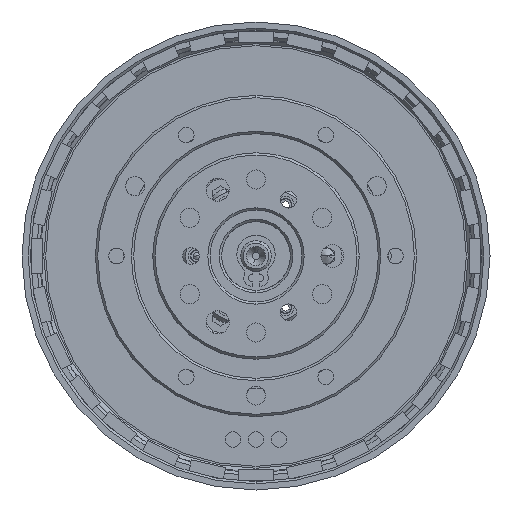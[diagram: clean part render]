
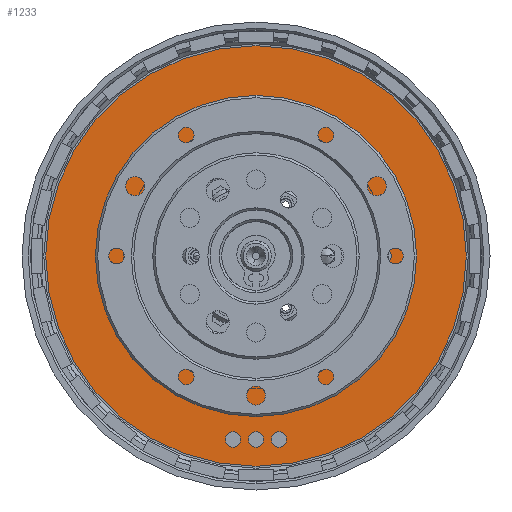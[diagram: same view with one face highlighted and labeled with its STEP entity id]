
A CAD part, front view. The second image highlights one B-rep face of the part: STEP entity #1233.
In plain terms, the highlighted planar face has unit normal (0, -1, 0).
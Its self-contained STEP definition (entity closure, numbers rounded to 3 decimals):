
#49 = EDGE_CURVE ( 'NONE', #1665, #521, #6562, .T. ) ;
#111 = AXIS2_PLACEMENT_3D ( 'NONE', #12588, #15078, #12414 ) ;
#150 = EDGE_CURVE ( 'NONE', #1593, #11159, #1097, .T. ) ;
#202 = CARTESIAN_POINT ( 'NONE',  ( 0., 0., -25. ) ) ;
#211 = AXIS2_PLACEMENT_3D ( 'NONE', #13631, #12352, #2162 ) ;
#260 = EDGE_CURVE ( 'NONE', #521, #306, #2521, .T. ) ;
#265 = EDGE_CURVE ( 'NONE', #974, #6972, #1961, .T. ) ;
#306 = VERTEX_POINT ( 'NONE', #10919 ) ;
#384 = CIRCLE ( 'NONE', #111, 1. ) ;
#440 = VERTEX_POINT ( 'NONE', #7455 ) ;
#521 = VERTEX_POINT ( 'NONE', #13067 ) ;
#666 = VERTEX_POINT ( 'NONE', #202 ) ;
#674 = DIRECTION ( 'NONE',  ( 0., 0., 1. ) ) ;
#683 = CARTESIAN_POINT ( 'NONE',  ( 0., 0., -24. ) ) ;
#974 = VERTEX_POINT ( 'NONE', #11575 ) ;
#988 = VERTEX_POINT ( 'NONE', #11672 ) ;
#1097 = CIRCLE ( 'NONE', #3868, 27.5 ) ;
#1233 = ADVANCED_FACE ( 'NONE', ( #9507, #9670, #14923, #3130, #11919 ), #15260, .F. ) ;
#1315 = VERTEX_POINT ( 'NONE', #9845 ) ;
#1323 = CARTESIAN_POINT ( 'NONE',  ( 0., 0., -23. ) ) ;
#1360 = ORIENTED_EDGE ( 'NONE', *, *, #7421, .T. ) ;
#1549 = CARTESIAN_POINT ( 'NONE',  ( 0., 0., -27.5 ) ) ;
#1593 = VERTEX_POINT ( 'NONE', #1549 ) ;
#1665 = VERTEX_POINT ( 'NONE', #12412 ) ;
#1707 = EDGE_CURVE ( 'NONE', #666, #4865, #2658, .T. ) ;
#1736 = AXIS2_PLACEMENT_3D ( 'NONE', #4483, #8015, #13272 ) ;
#1841 = CIRCLE ( 'NONE', #7352, 27.5 ) ;
#1961 = CIRCLE ( 'NONE', #12694, 1. ) ;
#2162 = DIRECTION ( 'NONE',  ( 0., 0., -1. ) ) ;
#2165 = DIRECTION ( 'NONE',  ( 0., 1., 0. ) ) ;
#2359 = DIRECTION ( 'NONE',  ( 0., 0., 1. ) ) ;
#2521 = CIRCLE ( 'NONE', #11307, 0.75 ) ;
#2579 = CARTESIAN_POINT ( 'NONE',  ( 0., 0., 27.5 ) ) ;
#2658 = CIRCLE ( 'NONE', #16969, 1. ) ;
#2821 = DIRECTION ( 'NONE',  ( 0., 1., 0. ) ) ;
#3130 = FACE_BOUND ( 'NONE', #4275, .T. ) ;
#3317 = ORIENTED_EDGE ( 'NONE', *, *, #49, .T. ) ;
#3435 = CARTESIAN_POINT ( 'NONE',  ( 0., 0., -24. ) ) ;
#3497 = ORIENTED_EDGE ( 'NONE', *, *, #10962, .F. ) ;
#3655 = EDGE_CURVE ( 'NONE', #12546, #16150, #11663, .T. ) ;
#3737 = CIRCLE ( 'NONE', #9240, 1. ) ;
#3798 = DIRECTION ( 'NONE',  ( 0., 0., -1. ) ) ;
#3868 = AXIS2_PLACEMENT_3D ( 'NONE', #6117, #2821, #11385 ) ;
#3899 = DIRECTION ( 'NONE',  ( 0., 0., 1. ) ) ;
#4035 = ORIENTED_EDGE ( 'NONE', *, *, #7878, .F. ) ;
#4055 = AXIS2_PLACEMENT_3D ( 'NONE', #4587, #2165, #7336 ) ;
#4074 = ORIENTED_EDGE ( 'NONE', *, *, #4665, .T. ) ;
#4275 = EDGE_LOOP ( 'NONE', ( #10232, #3497 ) ) ;
#4483 = CARTESIAN_POINT ( 'NONE',  ( 0., 0., 0. ) ) ;
#4587 = CARTESIAN_POINT ( 'NONE',  ( 0., 0., 0. ) ) ;
#4665 = EDGE_CURVE ( 'NONE', #1315, #12546, #12784, .T. ) ;
#4670 = CARTESIAN_POINT ( 'NONE',  ( 0., 0., 0. ) ) ;
#4865 = VERTEX_POINT ( 'NONE', #1323 ) ;
#5250 = DIRECTION ( 'NONE',  ( 0., 0., 1. ) ) ;
#5343 = AXIS2_PLACEMENT_3D ( 'NONE', #16937, #11581, #2359 ) ;
#5486 = DIRECTION ( 'NONE',  ( 0., 0., 1. ) ) ;
#5562 = CARTESIAN_POINT ( 'NONE',  ( 0., 0., 0. ) ) ;
#6036 = ORIENTED_EDGE ( 'NONE', *, *, #8706, .F. ) ;
#6117 = CARTESIAN_POINT ( 'NONE',  ( 0., 0., 0. ) ) ;
#6562 = CIRCLE ( 'NONE', #211, 17. ) ;
#6781 = CARTESIAN_POINT ( 'NONE',  ( 17., 0., 0. ) ) ;
#6863 = DIRECTION ( 'NONE',  ( 0., -1., 0. ) ) ;
#6972 = VERTEX_POINT ( 'NONE', #11417 ) ;
#7249 = CIRCLE ( 'NONE', #9460, 17. ) ;
#7336 = DIRECTION ( 'NONE',  ( 0., 0., 1. ) ) ;
#7352 = AXIS2_PLACEMENT_3D ( 'NONE', #5562, #14386, #3798 ) ;
#7421 = EDGE_CURVE ( 'NONE', #16150, #1665, #7249, .T. ) ;
#7455 = CARTESIAN_POINT ( 'NONE',  ( 3., 0., -23. ) ) ;
#7846 = DIRECTION ( 'NONE',  ( 0., 1., 0. ) ) ;
#7878 = EDGE_CURVE ( 'NONE', #11159, #1593, #1841, .T. ) ;
#8015 = DIRECTION ( 'NONE',  ( 0., 1., 0. ) ) ;
#8439 = ORIENTED_EDGE ( 'NONE', *, *, #3655, .T. ) ;
#8495 = EDGE_LOOP ( 'NONE', ( #8439, #1360, #3317, #16444, #10911, #4074 ) ) ;
#8524 = CARTESIAN_POINT ( 'NONE',  ( 16.983, 0., -0.75 ) ) ;
#8706 = EDGE_CURVE ( 'NONE', #6972, #974, #12894, .T. ) ;
#8956 = ORIENTED_EDGE ( 'NONE', *, *, #150, .F. ) ;
#9075 = EDGE_CURVE ( 'NONE', #306, #1315, #11532, .T. ) ;
#9165 = EDGE_LOOP ( 'NONE', ( #9812, #11914 ) ) ;
#9240 = AXIS2_PLACEMENT_3D ( 'NONE', #3435, #12741, #674 ) ;
#9460 = AXIS2_PLACEMENT_3D ( 'NONE', #4670, #9927, #10022 ) ;
#9507 = FACE_BOUND ( 'NONE', #8495, .T. ) ;
#9549 = DIRECTION ( 'NONE',  ( 0., 0., 1. ) ) ;
#9670 = FACE_OUTER_BOUND ( 'NONE', #13516, .T. ) ;
#9714 = CARTESIAN_POINT ( 'NONE',  ( -3., 0., -24. ) ) ;
#9812 = ORIENTED_EDGE ( 'NONE', *, *, #15728, .F. ) ;
#9845 = CARTESIAN_POINT ( 'NONE',  ( 17., 0., -0.75 ) ) ;
#9857 = AXIS2_PLACEMENT_3D ( 'NONE', #12089, #12006, #3899 ) ;
#9879 = CARTESIAN_POINT ( 'NONE',  ( 0., 0., -17. ) ) ;
#9905 = DIRECTION ( 'NONE',  ( 0., 0., 1. ) ) ;
#9927 = DIRECTION ( 'NONE',  ( 0., 1., 0. ) ) ;
#10016 = DIRECTION ( 'NONE',  ( 0., 0., 1. ) ) ;
#10022 = DIRECTION ( 'NONE',  ( 0., 0., -1. ) ) ;
#10051 = ORIENTED_EDGE ( 'NONE', *, *, #265, .F. ) ;
#10232 = ORIENTED_EDGE ( 'NONE', *, *, #10558, .F. ) ;
#10556 = AXIS2_PLACEMENT_3D ( 'NONE', #12778, #13890, #10016 ) ;
#10558 = EDGE_CURVE ( 'NONE', #440, #988, #13303, .T. ) ;
#10911 = ORIENTED_EDGE ( 'NONE', *, *, #9075, .T. ) ;
#10919 = CARTESIAN_POINT ( 'NONE',  ( 17., 0., 0.75 ) ) ;
#10962 = EDGE_CURVE ( 'NONE', #988, #440, #384, .T. ) ;
#11159 = VERTEX_POINT ( 'NONE', #2579 ) ;
#11307 = AXIS2_PLACEMENT_3D ( 'NONE', #6781, #14877, #5486 ) ;
#11385 = DIRECTION ( 'NONE',  ( 0., 0., -1. ) ) ;
#11417 = CARTESIAN_POINT ( 'NONE',  ( -3., 0., -23. ) ) ;
#11532 = CIRCLE ( 'NONE', #17039, 0.75 ) ;
#11575 = CARTESIAN_POINT ( 'NONE',  ( -3., 0., -25. ) ) ;
#11581 = DIRECTION ( 'NONE',  ( 0., 1., 0. ) ) ;
#11663 = CIRCLE ( 'NONE', #1736, 17. ) ;
#11672 = CARTESIAN_POINT ( 'NONE',  ( 3., 0., -25. ) ) ;
#11914 = ORIENTED_EDGE ( 'NONE', *, *, #1707, .F. ) ;
#11919 = FACE_BOUND ( 'NONE', #16371, .T. ) ;
#12006 = DIRECTION ( 'NONE',  ( 0., -1., 0. ) ) ;
#12089 = CARTESIAN_POINT ( 'NONE',  ( -3., 0., -24. ) ) ;
#12352 = DIRECTION ( 'NONE',  ( 0., 1., 0. ) ) ;
#12412 = CARTESIAN_POINT ( 'NONE',  ( 0., 0., 17. ) ) ;
#12414 = DIRECTION ( 'NONE',  ( 0., 0., 1. ) ) ;
#12546 = VERTEX_POINT ( 'NONE', #8524 ) ;
#12588 = CARTESIAN_POINT ( 'NONE',  ( 3., 0., -24. ) ) ;
#12694 = AXIS2_PLACEMENT_3D ( 'NONE', #9714, #6863, #9549 ) ;
#12741 = DIRECTION ( 'NONE',  ( 0., -1., 0. ) ) ;
#12778 = CARTESIAN_POINT ( 'NONE',  ( 3., 0., -24. ) ) ;
#12784 = CIRCLE ( 'NONE', #5343, 0.75 ) ;
#12894 = CIRCLE ( 'NONE', #9857, 1. ) ;
#13067 = CARTESIAN_POINT ( 'NONE',  ( 16.983, 0., 0.75 ) ) ;
#13272 = DIRECTION ( 'NONE',  ( 0., 0., -1. ) ) ;
#13303 = CIRCLE ( 'NONE', #10556, 1. ) ;
#13516 = EDGE_LOOP ( 'NONE', ( #8956, #4035 ) ) ;
#13631 = CARTESIAN_POINT ( 'NONE',  ( 0., 0., 0. ) ) ;
#13890 = DIRECTION ( 'NONE',  ( 0., -1., 0. ) ) ;
#14386 = DIRECTION ( 'NONE',  ( 0., 1., 0. ) ) ;
#14877 = DIRECTION ( 'NONE',  ( 0., 1., 0. ) ) ;
#14923 = FACE_BOUND ( 'NONE', #9165, .T. ) ;
#15075 = DIRECTION ( 'NONE',  ( 0., -1., 0. ) ) ;
#15078 = DIRECTION ( 'NONE',  ( 0., -1., 0. ) ) ;
#15260 = PLANE ( 'NONE',  #4055 ) ;
#15728 = EDGE_CURVE ( 'NONE', #4865, #666, #3737, .T. ) ;
#16150 = VERTEX_POINT ( 'NONE', #9879 ) ;
#16371 = EDGE_LOOP ( 'NONE', ( #6036, #10051 ) ) ;
#16444 = ORIENTED_EDGE ( 'NONE', *, *, #260, .T. ) ;
#16901 = CARTESIAN_POINT ( 'NONE',  ( 17., 0., 0. ) ) ;
#16937 = CARTESIAN_POINT ( 'NONE',  ( 17., 0., 0. ) ) ;
#16969 = AXIS2_PLACEMENT_3D ( 'NONE', #683, #15075, #9905 ) ;
#17039 = AXIS2_PLACEMENT_3D ( 'NONE', #16901, #7846, #5250 ) ;
